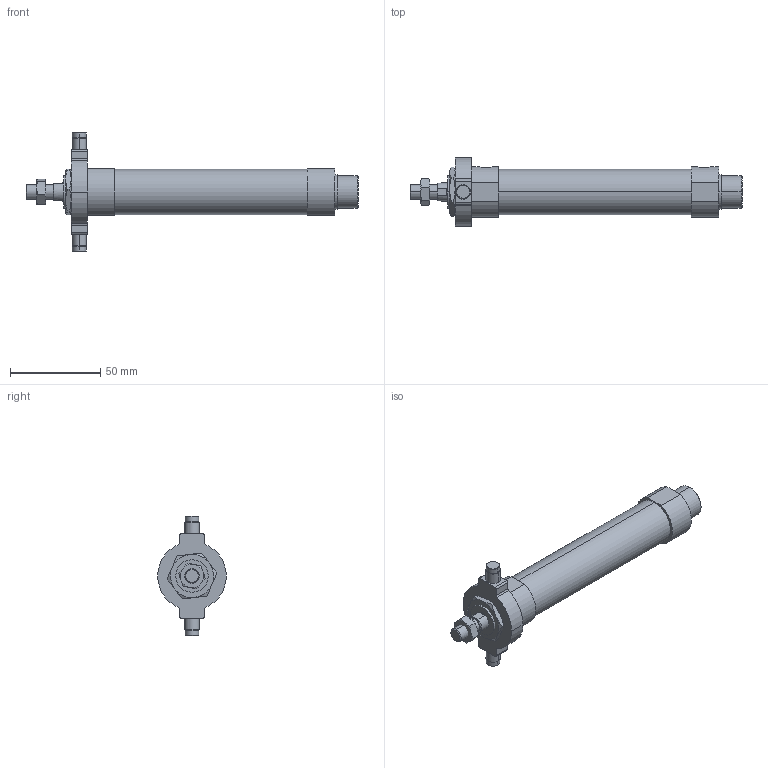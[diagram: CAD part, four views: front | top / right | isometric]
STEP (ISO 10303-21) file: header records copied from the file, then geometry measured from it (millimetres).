
FILE_DESCRIPTION (( 'STEP AP203' ), '1' );
FILE_NAME ('J#2-20-75-T.STEP', '2016-03-08T07:00:48', ( '' ), ( '' ), 'SwSTEP 2.0', 'SolidWorks 2014', '' );
FILE_SCHEMA (( 'CONFIG_CONTROL_DESIGN' ));
Length unit declared in the file: millimetre
Products named in the file (5): J#2-20-75-T; J#2-20-T; J#2-20-75
Assembly tree (4 placements, depth 2):
  J#2-20-75-T
    J#2-20-75
    (unnamed)
    (unnamed)
    J#2-20-T
Bounding box: 184 x 38 x 66 mm (x, y, z)
Volume: 88146.9 mm3; surface area: 20887.2 mm2
Topology: 4 solids, 4 shells, 131 faces, 291 edges, 180 vertices
Faces by surface type: cylinder 47, plane 46, torus 24, cone 14
Entity records: 4496 total; most frequent: CARTESIAN_POINT 1065, DIRECTION 639, ORIENTED_EDGE 582, EDGE_CURVE 291, AXIS2_PLACEMENT_3D 266, VERTEX_POINT 180, EDGE_LOOP 149, ADVANCED_FACE 131
